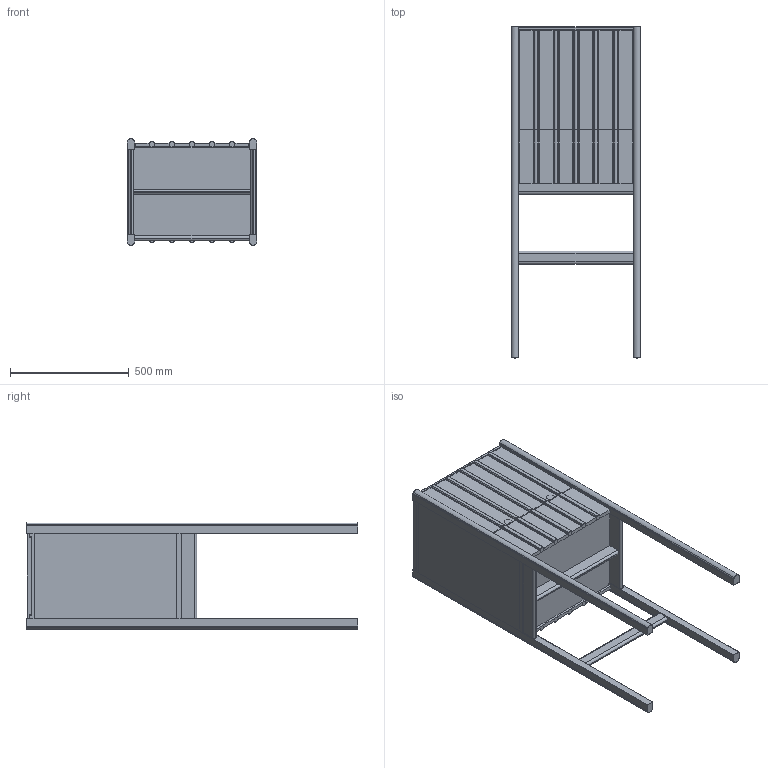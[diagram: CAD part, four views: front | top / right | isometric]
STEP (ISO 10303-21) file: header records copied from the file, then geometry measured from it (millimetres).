
FILE_DESCRIPTION (( 'STEP AP203' ), '1' );
FILE_NAME ('REPETA 02 CUPBOARD.STEP', '2020-07-09T10:08:09', ( '' ), ( '' ), 'SwSTEP 2.0', 'SolidWorks 2020', '' );
FILE_SCHEMA (( 'CONFIG_CONTROL_DESIGN' ));
Length unit declared in the file: millimetre
Products named in the file (1): REPETA 02 CUPBOARD
Bounding box: 548 x 1400 x 450 mm (x, y, z)
Volume: 50204977.5 mm3; surface area: 4942331.1 mm2
Topology: 4 solids, 4 shells, 633 faces, 1645 edges, 1016 vertices
Faces by surface type: plane 456, cylinder 125, cone 52
Entity records: 19042 total; most frequent: CARTESIAN_POINT 3355, ORIENTED_EDGE 3290, DIRECTION 3205, EDGE_CURVE 1645, LINE 1329, VECTOR 1329, VERTEX_POINT 1016, AXIS2_PLACEMENT_3D 938
